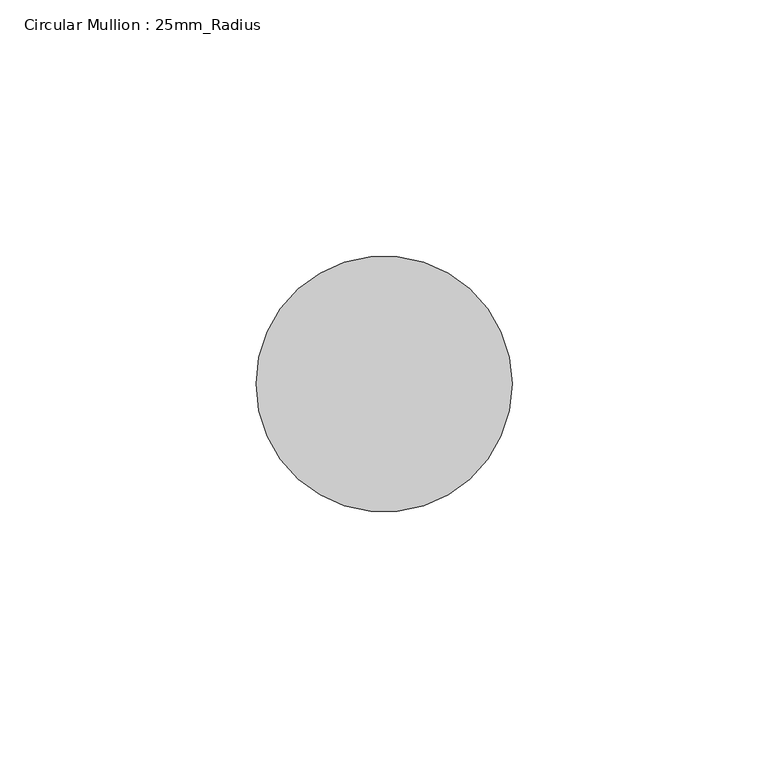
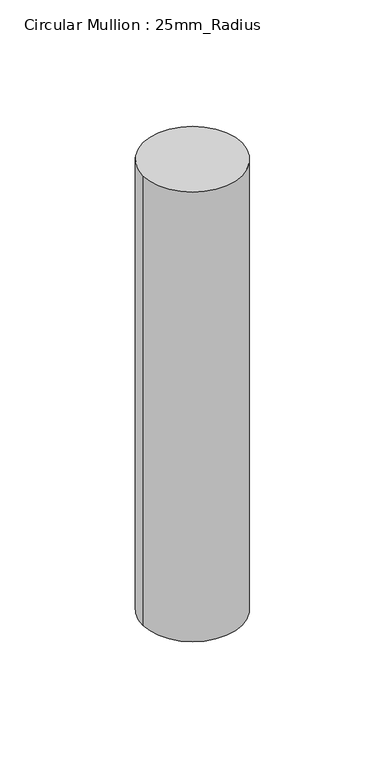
"""IFC4 building model written with IfcOpenShell, lengths in millimetres: member geometry, Circular Mullion : 25mm_Radius."""

import ifcopenshell
import ifcopenshell.guid

model = None  # the IFC model being written
_history = None  # IfcOwnerHistory: only IFC2X3 demands one
_inside = {}  # id of a spatial element -> (the spatial element, [elements in it])
_under = {}  # id of a project, library or spatial element -> (it, [spatial elements below it])
_declared = {}  # id of a project -> (the project, [libraries it declares])
_typed = {}  # id of a type object -> (the type object, [elements of that type])
_made_of = {}  # id of a material, layer set ... -> (it, [elements and type objects made of it])


def new_model(schema):
    """Start an empty IFC model of exactly this schema.

    Asked for "IFC4X3", IfcOpenShell would pick the latest addendum, in which some entities
    have other attributes; the version numbers below select the first issue.
    IFC2X3 requires an IfcOwnerHistory on every rooted entity: one is made here for all.
    """
    global model, _history
    if schema == "IFC4X3":
        model = ifcopenshell.file(schema_version=(4, 3, 0, 0))
    else:
        model = ifcopenshell.file(schema=schema)
    _inside.clear()
    _under.clear()
    _declared.clear()
    _typed.clear()
    _made_of.clear()
    _history = None
    if model.schema == "IFC2X3":
        org = make("IfcOrganization", Name="unknown")
        user = make(
            "IfcPersonAndOrganization",
            ThePerson=make("IfcPerson", FamilyName="unknown"),
            TheOrganization=org,
        )
        app = make(
            "IfcApplication",
            ApplicationDeveloper=org,
            Version="unknown",
            ApplicationFullName="unknown",
            ApplicationIdentifier="unknown",
        )
        _history = make(
            "IfcOwnerHistory",
            OwningUser=user,
            OwningApplication=app,
            ChangeAction="ADDED",
            CreationDate=0,
        )
    return model


def make(cls, **values):
    """One entity of the class cls with the attributes given. An attribute that is None is left unset."""
    return model.create_entity(
        cls, **{name: value for name, value in values.items() if value is not None}
    )


def rooted(cls, **values):
    """An entity with a GlobalId (a new one), such as an element, a storey or a relation."""
    return make(cls, GlobalId=ifcopenshell.guid.new(), OwnerHistory=_history, **values)


def si_unit(unit_type, name, prefix=None):
    """IfcSIUnit, for example si_unit("LENGTHUNIT", "METRE", prefix="MILLI")."""
    return make("IfcSIUnit", UnitType=unit_type, Prefix=prefix, Name=name)


def assignment(units):
    """IfcUnitAssignment: the units of a project."""
    return None if units is None else make("IfcUnitAssignment", Units=units)


def point(xyz):
    """IfcCartesianPoint."""
    return None if xyz is None else make("IfcCartesianPoint", Coordinates=xyz)


def direction(xyz):
    """IfcDirection."""
    return None if xyz is None else make("IfcDirection", DirectionRatios=xyz)


def frame(location, z_axis=None, x_axis=None):
    """IfcAxis2Placement3D, a coordinate frame: its origin and axes. An axis left out is left unset."""
    return make(
        "IfcAxis2Placement3D",
        Location=point(location),
        Axis=direction(z_axis),
        RefDirection=direction(x_axis),
    )


def frame_2d(location, x_axis=None):
    """IfcAxis2Placement2D, a coordinate frame in the plane: its origin and x axis."""
    return make(
        "IfcAxis2Placement2D", Location=point(location), RefDirection=direction(x_axis)
    )


def origin():
    """The frame at (0, 0, 0) with its axes left unset."""
    return frame((0.0, 0.0, 0.0))


def place(relative_to, where):
    """IfcLocalPlacement: puts the frame where relative to a parent placement (None: the world)."""
    return make(
        "IfcLocalPlacement", PlacementRelTo=relative_to, RelativePlacement=where
    )


def context(
    kind, dimensions, precision=None, world=None, true_north=None, identifier=None
):
    """IfcGeometricRepresentationContext, for example the 3D "Model" context."""
    return make(
        "IfcGeometricRepresentationContext",
        ContextIdentifier=identifier,
        ContextType=kind,
        CoordinateSpaceDimension=dimensions,
        Precision=precision,
        WorldCoordinateSystem=world,
        TrueNorth=true_north,
    )


def project(units=None, contexts=None):
    """IfcProject with its units and contexts."""
    return rooted(
        "IfcProject",
        Name="project",
        RepresentationContexts=contexts,
        UnitsInContext=assignment(units),
    )


def spatial(cls, under=None, at=None, **own):
    """A site, building, storey or space (cls), placed at a placement, below another one or the project."""
    s = rooted(cls, ObjectPlacement=at, **own)
    if under is not None:
        _under.setdefault(under.id(), (under, []))[1].append(s)
    return s


def circle_curve(where, radius):
    """IfcCircle in the frame where."""
    return make("IfcCircle", Position=where, Radius=radius)


def trimmed(basis, trim1, trim2, sense, master):
    """IfcTrimmedCurve: the piece of a basis curve between two trims."""
    return make(
        "IfcTrimmedCurve",
        BasisCurve=basis,
        Trim1=trim1,
        Trim2=trim2,
        SenseAgreement=sense,
        MasterRepresentation=master,
    )


def segment(curve, same_sense, transition):
    """IfcCompositeCurveSegment."""
    return make(
        "IfcCompositeCurveSegment",
        Transition=transition,
        SameSense=same_sense,
        ParentCurve=curve,
    )


def composite_curve(segments, self_intersect=None):
    """IfcCompositeCurve: segments joined end to end."""
    return make("IfcCompositeCurve", Segments=segments, SelfIntersect=self_intersect)


def outline(outer, holes=None, kind="AREA"):
    """IfcArbitraryClosedProfileDef: a profile drawn as a closed curve; with holes, ...WithVoids."""
    if holes is None:
        return make("IfcArbitraryClosedProfileDef", ProfileType=kind, OuterCurve=outer)
    return make(
        "IfcArbitraryProfileDefWithVoids",
        ProfileType=kind,
        OuterCurve=outer,
        InnerCurves=holes,
    )


def extrude(swept, where, along, depth):
    """IfcExtrudedAreaSolid: the profile swept, set in the frame where, extruded along a direction by depth."""
    return make(
        "IfcExtrudedAreaSolid",
        SweptArea=swept,
        Position=where,
        ExtrudedDirection=direction(along),
        Depth=depth,
    )


def shape(context_of_items, identifier, shape_type, items):
    """IfcShapeRepresentation: the items that make up one representation, for example the "Body"."""
    return make(
        "IfcShapeRepresentation",
        ContextOfItems=context_of_items,
        RepresentationIdentifier=identifier,
        RepresentationType=shape_type,
        Items=items,
    )


def source(mapping_origin, context_of_items, identifier, shape_type, items):
    """IfcRepresentationMap: a shape defined once, which mapped items show again and again."""
    return make(
        "IfcRepresentationMap",
        MappingOrigin=mapping_origin,
        MappedRepresentation=shape(context_of_items, identifier, shape_type, items),
    )


def transform(
    local_origin,
    x_axis=None,
    y_axis=None,
    z_axis=None,
    scale=None,
    scale2=None,
    scale3=None,
    uniform=True,
):
    """IfcCartesianTransformationOperator3D, or its non-uniform kind. x_axis, y_axis, z_axis: its Axis1, 2, 3."""
    if uniform:
        return make(
            "IfcCartesianTransformationOperator3D",
            Axis1=direction(x_axis),
            Axis2=direction(y_axis),
            LocalOrigin=point(local_origin),
            Scale=scale,
            Axis3=direction(z_axis),
        )
    return make(
        "IfcCartesianTransformationOperator3DnonUniform",
        Axis1=direction(x_axis),
        Axis2=direction(y_axis),
        LocalOrigin=point(local_origin),
        Scale=scale,
        Axis3=direction(z_axis),
        Scale2=scale2,
        Scale3=scale3,
    )


def mapped(mapping_source, mapping_target):
    """IfcMappedItem: shows the shape of a source again, moved by a transform."""
    return make(
        "IfcMappedItem", MappingSource=mapping_source, MappingTarget=mapping_target
    )


def made_of(thing, what):
    """Note that an element or type object is made of a material, layer set ...; save() writes the relation."""
    if what is not None:
        _made_of.setdefault(what.id(), (what, []))[1].append(thing)
    return thing


def element(
    cls,
    number,
    at=None,
    inside=None,
    cuts=None,
    type_object=None,
    material=None,
    context=None,
    identifier="Body",
    shape_type=None,
    held_by="IfcProductDefinitionShape",
    body=None,
    shapes=None,
    **own,
):
    """One element of the class cls, such as IfcWall. Its Tag is "e" and its number.

    at: its placement. inside: the storey or other place that contains it. cuts: it is an
    opening in that element (IfcRelVoidsElement). A single representation is given by context,
    identifier, shape_type and body (its items); several are given by shapes. held_by: the class
    of the entity that holds the representations. save() writes the other relations.
    """
    e = rooted(cls, Tag="e%d" % number, ObjectPlacement=at, **own)
    if body is not None:
        shapes = [shape(context, identifier, shape_type, body)]
    if shapes is not None:
        e.Representation = make(held_by, Representations=shapes)
    if inside is not None:
        _inside.setdefault(inside.id(), (inside, []))[1].append(e)
    if cuts is not None:
        rooted(
            "IfcRelVoidsElement", RelatingBuildingElement=cuts, RelatedOpeningElement=e
        )
    if type_object is not None:
        _typed.setdefault(type_object.id(), (type_object, []))[1].append(e)
    return made_of(e, material)


def aggregate(whole, parts):
    """IfcRelAggregates: a whole, such as a stair, and the parts it consists of."""
    return rooted("IfcRelAggregates", RelatingObject=whole, RelatedObjects=parts)


def save(model, path):
    """Write the relations noted so far, then the file.

    IfcRelAggregates (storeys below a building ...), IfcRelContainedInSpatialStructure (elements
    in a storey), IfcRelDefinesByType, IfcRelAssociatesMaterial and IfcRelDeclares: one each for
    every whole, place, type object, material and project.
    """
    for whole, parts in _under.values():
        aggregate(whole, parts)
    for where, things in _inside.values():
        rooted(
            "IfcRelContainedInSpatialStructure",
            RelatedElements=things,
            RelatingStructure=where,
        )
    for kind, things in _typed.values():
        rooted("IfcRelDefinesByType", RelatedObjects=things, RelatingType=kind)
    for what, things in _made_of.values():
        rooted("IfcRelAssociatesMaterial", RelatedObjects=things, RelatingMaterial=what)
    for by, libraries in _declared.values():
        rooted("IfcRelDeclares", RelatingContext=by, RelatedDefinitions=libraries)
    model.write(path)


def circular_mullion_25mm_radius_a3a87a54(model_context):
    return source(origin(), model_context, "Body", "SweptSolid", [
        extrude(outline(composite_curve([segment(trimmed(circle_curve(frame_2d((-25.0, 0.0)), 25.0), [point((0.0, 0.0))], [point((-50.0, 0.0))], False, "CARTESIAN"), True, "CONTINUOUS"), segment(trimmed(circle_curve(frame_2d((-25.0, 0.0)), 25.0), [point((-50.0, 0.0))], [point((0.0, 0.0))], False, "CARTESIAN"), True, "CONTINUOUS")], self_intersect=False)), frame((0.0, 0.0, -240.0000241), z_axis=(0.0, 0.0, 1.0), x_axis=(1.0, 0.0, 0.0)), (0.0, 0.0, 1.0), 240.0000241),
    ])


if __name__ == "__main__":
    model = new_model("IFC4")
    model_context = context("Model", 3, world=origin())
    ifc_project = project(units=[si_unit("LENGTHUNIT", "METRE", prefix="MILLI")], contexts=[model_context])
    site = spatial("IfcSite", under=ifc_project)
    building = spatial("IfcBuilding", under=site)
    placement = place(None, origin())
    circular_mullion_25mm_radius_shape = circular_mullion_25mm_radius_a3a87a54(model_context)
    element("IfcMember", 1, ObjectType="Circular Mullion : 25mm_Radius", at=placement, inside=building, context=model_context, shape_type="MappedRepresentation", body=[
        mapped(circular_mullion_25mm_radius_shape, transform((0.0, 0.0, 0.0), x_axis=(1.0, 0.0, 0.0), y_axis=(0.0, 1.0, 0.0), z_axis=(0.0, 0.0, 1.0))),
    ])
    save(model, "model.ifc")
